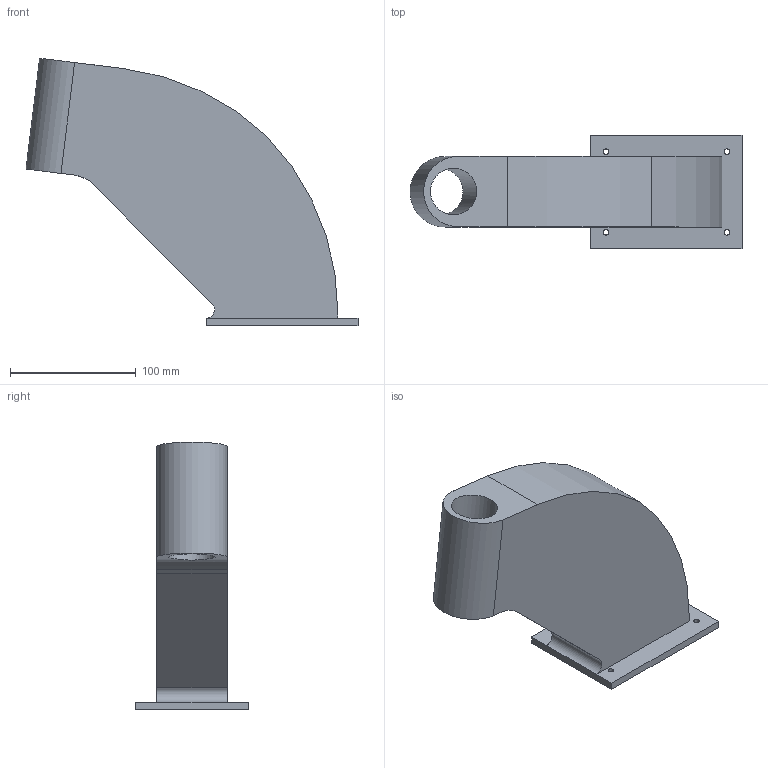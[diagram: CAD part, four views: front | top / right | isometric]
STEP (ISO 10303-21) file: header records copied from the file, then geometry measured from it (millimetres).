
FILE_DESCRIPTION(/* description */ ('STEP AP242','CAx-IF Rec.Pracs.---Representation and Presentation of Product Manufacturing Information (PMI)---4.0---2014-10-13','CAx-IF Rec.Pracs.---3D Tessellated Geometry---0.4---2014-09-14','2;1'),/* implementation_level */ '2;1');
FILE_NAME(/* name */ 'Assembly 1 - Part 1 (5)',/* time_stamp */ '2025-05-18T07:24:53Z',/* author */ (''),/* organization */ (''),/* preprocessor_version */ 'ST-DEVELOPER v20',/* originating_system */ 'ONSHAPE BY PTC INC, 1.198',/* authorisation */ ' ');
FILE_SCHEMA (('AP242_MANAGED_MODEL_BASED_3D_ENGINEERING_MIM_LF { 1 0 10303 442 1 1 4 }'));
Length unit declared in the file: metre
Products named in the file (1): Part 1
Bounding box: 263.61 x 90 x 212.4 mm (x, y, z)
Volume: 513680.1 mm3; surface area: 182944.6 mm2
Topology: 1 solids, 1 shells, 36 faces, 103 edges, 69 vertices
Faces by surface type: plane 21, cylinder 15
Full cylindrical faces by diameter (mm): 4.4 x4, 37 x1, 48 x1
Entity records: 1191 total; most frequent: CARTESIAN_POINT 209, DIRECTION 198, ORIENTED_EDGE 190, EDGE_CURVE 95, VERTEX_POINT 67, AXIS2_PLACEMENT_3D 67, LINE 64, VECTOR 64
